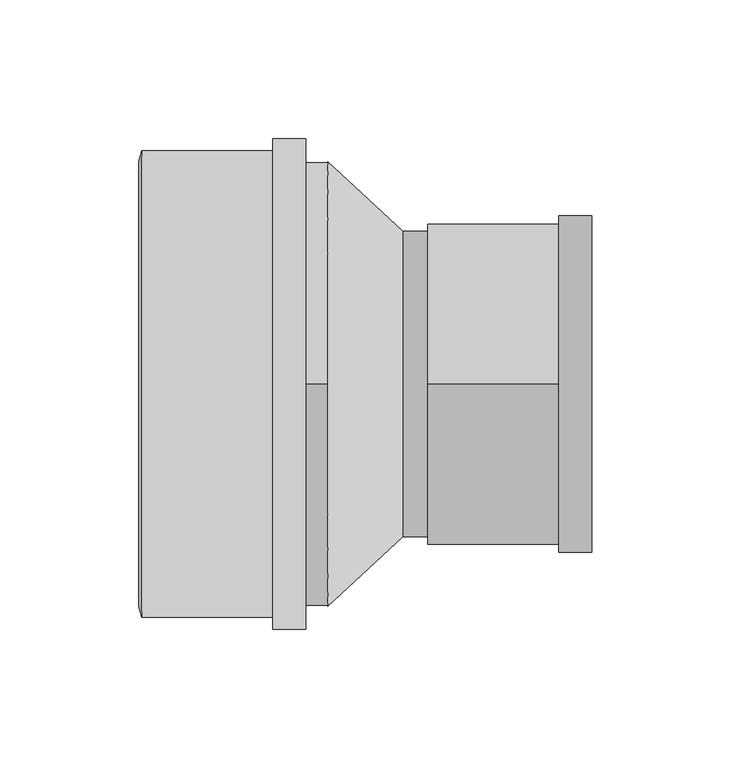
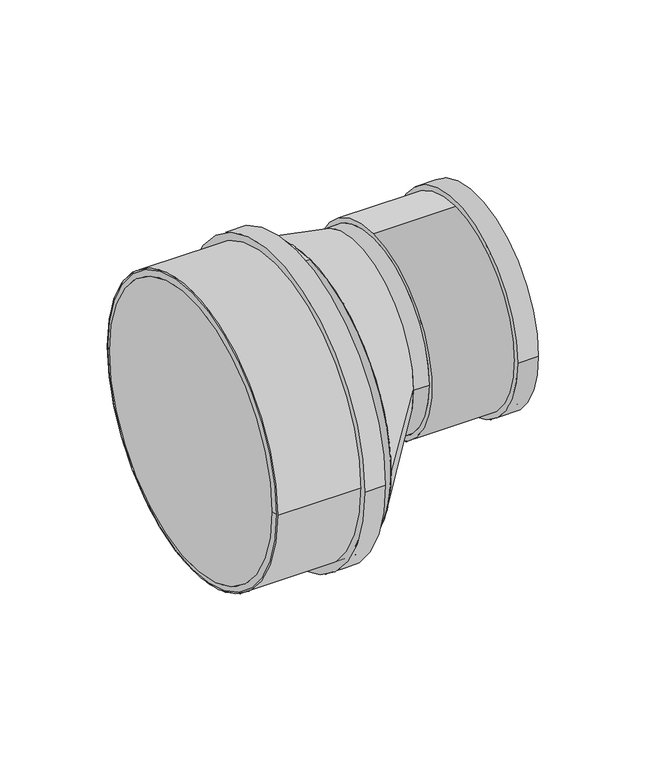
"""IFC4 building model written with IfcOpenShell, lengths in millimetres: pipe fitting geometry, Superdrain SKR-Reducer : Superdrain SKR-Reducer."""

from ifc_helpers import new_model, si_unit, point, frame, frame_2d, origin, origin_2d, place, context, project, spatial, polyline, circle_curve, trimmed, segment, composite_curve, outline, extrude, source, transform, mapped, element, save
from ifc_brep_helpers import plane_surface, revolved_surface, spline_surface, advanced_brep


def pipe_fitting_d8eed5cc(model_context):
    return source(origin(), model_context, "Body", "SolidModel", [
        extrude(outline(composite_curve([segment(trimmed(circle_curve(frame_2d((0.0, 0.1450234)), 84.0), [point((84.0, 0.1450234))], [point((-84.0, 0.1450234))], False, "CARTESIAN"), True, "CONTINUOUS"), segment(trimmed(circle_curve(frame_2d((0.0, 0.1450234)), 84.0), [point((-84.0, 0.1450234))], [point((84.0, 0.1450234))], False, "CARTESIAN"), True, "CONTINUOUS")], self_intersect=False), holes=[composite_curve([segment(trimmed(circle_curve(frame_2d((0.0, 0.1450234)), 80.0), [point((80.0, 0.1450234))], [point((-80.0, 0.1450234))], True, "CARTESIAN"), True, "CONTINUOUS"), segment(trimmed(circle_curve(frame_2d((0.0, 0.1450234)), 80.0), [point((-80.0, 0.1450234))], [point((80.0, 0.1450234))], True, "CARTESIAN"), True, "CONTINUOUS")], self_intersect=False)]), frame((-67.0, 0.0, 0.0), z_axis=(1.0, 0.0, 0.0), x_axis=(0.0, 1.0, 0.0)), (0.0, 0.0, 1.0), 59.0),
        extrude(outline(composite_curve([segment(trimmed(circle_curve(frame_2d((0.0, 0.1450234)), 88.2), [point((88.2, 0.1450234))], [point((-88.2, 0.1450234))], False, "CARTESIAN"), True, "CONTINUOUS"), segment(trimmed(circle_curve(frame_2d((0.0, 0.1450234)), 88.2), [point((-88.2, 0.1450234))], [point((88.2, 0.1450234))], False, "CARTESIAN"), True, "CONTINUOUS")], self_intersect=False), holes=[composite_curve([segment(trimmed(circle_curve(frame_2d((0.0, 0.1450234)), 80.0), [point((80.0, 0.1450234))], [point((-80.0, 0.1450234))], True, "CARTESIAN"), True, "CONTINUOUS"), segment(trimmed(circle_curve(frame_2d((0.0, 0.1450234)), 80.0), [point((-80.0, 0.1450234))], [point((80.0, 0.1450234))], True, "CARTESIAN"), True, "CONTINUOUS")], self_intersect=False)]), frame((-19.8, 0.0, 0.0), z_axis=(1.0, 0.0, 0.0), x_axis=(0.0, 1.0, 0.0)), (0.0, 0.0, 1.0), 11.8),
        advanced_brep(
        [(-68.0, 80.0, 0.1450234), (-68.0, -80.0, 0.1450234), (-67.0, 84.0, 0.1450234), (-67.0, -84.0, 0.1450234)],
        [
            (0, 1, circle_curve(frame((-68.0, 0.0, 0.1450234), z_axis=(-1.0, 0.0, 0.0), x_axis=(0.0, 1.0000000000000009, 0.0)), 80.0)),
            (1, 0, circle_curve(frame((-68.0, 0.0, 0.1450234), z_axis=(-1.0, 0.0, 0.0), x_axis=(0.0, -1.0000000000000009, 0.0)), 80.0)),
            (2, 3, circle_curve(frame((-67.0, 0.0, 0.1450234), z_axis=(1.0, 0.0, 0.0), x_axis=(0.0, -1.0000000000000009, 0.0)), 84.0)),
            (3, 2, circle_curve(frame((-67.0, 0.0, 0.1450234), z_axis=(1.0, 0.0, 0.0), x_axis=(0.0, 1.0000000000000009, 0.0)), 84.0)),
            (3, 1),
            (0, 2),
        ],
        [
            plane_surface(frame((-68.0, 0.0, 0.1450234), z_axis=(-1.0, 0.0, 0.0), x_axis=(0.0, 0.0, -1.0))),
            plane_surface(frame((-67.0, 0.0, 0.1450234), z_axis=(1.0, 0.0, 0.0), x_axis=(0.0, 0.0, -1.0))),
            revolved_surface(polyline([(-68.0, 79.99999999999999, 0.1450234), (-67.0, 84.0, 0.1450234)]), (-88.0, 0.0, 0.1450234), (1.0000000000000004, 0.0, 0.0)),
            revolved_surface(polyline([(-68.0, -79.99999999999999, 0.1450234), (-67.0, -84.0, 0.1450234)]), (-88.0, 0.0, 0.1450234), (1.0000000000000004, 0.0, 0.0)),
        ],
        [
            (0, [[1, 2]]),
            (1, [[3, 4]]),
            (2, [[-4, 5, -1, 6]]),
            (3, [[-3, -6, -2, -5]]),
        ],
    ),
        advanced_brep(
        [(27.0, -55.0, 25.0), (27.0, 55.0, 25.0), (0.0, -80.0, 0.0), (0.0, 80.0, 0.0)],
        [
            (0, 1, circle_curve(frame((27.0, 0.0, 25.0), z_axis=(1.0, 0.0, 0.0), x_axis=(0.0, 1.0, 0.0)), 55.0)),
            (1, 0, circle_curve(frame((27.0, 0.0, 25.0), z_axis=(1.0, 0.0, 0.0), x_axis=(0.0, 1.0, 0.0)), 55.0)),
            (2, 3, circle_curve(frame((0.0, 0.0, 0.0), z_axis=(-1.0, 0.0, 0.0), x_axis=(0.0, 1.0, 0.0)), 80.0)),
            (3, 2, circle_curve(frame((0.0, 0.0, 0.0), z_axis=(-1.0, 0.0, 0.0), x_axis=(0.0, 1.0, 0.0)), 80.0)),
            (3, 1),
            (0, 2),
        ],
        [
            plane_surface(frame((27.0, 0.0, 25.0), z_axis=(1.0, 0.0, 0.0), x_axis=(0.0, 0.0, -1.0))),
            plane_surface(frame((0.0, 0.0, 0.0), z_axis=(-1.0, 0.0, 0.0), x_axis=(0.0, 0.0, -1.0))),
            spline_surface(2, 1, [[(0.0, -80.0, 0.0), (27.0, -55.0, 25.0)], [(0.0, -80.0, -80.0), (27.0, -55.0, -30.0)], [(0.0, 0.0, -80.0), (27.0, 0.0, -30.0)], [(0.0, 80.0, -80.0), (27.0, 55.0, -30.0)], [(0.0, 80.0, 0.0), (27.0, 55.0, 25.0)]], [3, 2, 3], [2, 2], [0.0, 1.0, 2.0], [0.0, 1.0], weights=[[1.0, 1.0], [0.7071067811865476, 0.7071067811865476], [1.0, 1.0], [0.7071067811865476, 0.7071067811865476], [1.0, 1.0]]),
            spline_surface(2, 1, [[(0.0, 80.0, 0.0), (27.0, 55.0, 25.0)], [(0.0, 80.0, 80.0), (27.0, 55.0, 80.0)], [(0.0, 0.0, 80.0), (27.0, 0.0, 80.0)], [(0.0, -80.0, 80.0), (27.0, -55.0, 80.0)], [(0.0, -80.0, 0.0), (27.0, -55.0, 25.0)]], [3, 2, 3], [2, 2], [0.0, 1.0, 2.0], [0.0, 1.0], weights=[[1.0, 1.0], [0.7071067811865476, 0.7071067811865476], [1.0, 1.0], [0.7071067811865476, 0.7071067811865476], [1.0, 1.0]]),
        ],
        [
            (0, [[1, 2]]),
            (1, [[3, 4]]),
            (2, [[-4, 5, -1, 6]]),
            (3, [[-3, -6, -2, -5]]),
        ],
    ),
        extrude(outline(composite_curve([segment(trimmed(circle_curve(frame_2d((0.0, 25.0)), 55.0), [point((-55.0, 25.0))], [point((55.0, 25.0))], False, "CARTESIAN"), True, "CONTINUOUS"), segment(trimmed(circle_curve(frame_2d((0.0, 25.0)), 55.0), [point((55.0, 25.0))], [point((-55.0, 25.0))], False, "CARTESIAN"), True, "CONTINUOUS")], self_intersect=False)), frame((27.0, 0.0, 0.0), z_axis=(1.0, 0.0, 0.0), x_axis=(0.0, 1.0, 0.0)), (0.0, 0.0, 1.0), 9.0),
        extrude(outline(composite_curve([segment(trimmed(circle_curve(frame_2d((0.0, 25.0)), 60.6375), [point((-60.6375, 25.0))], [point((60.6375, 25.0))], False, "CARTESIAN"), True, "CONTINUOUS"), segment(trimmed(circle_curve(frame_2d((0.0, 25.0)), 60.6375), [point((60.6375, 25.0))], [point((-60.6375, 25.0))], False, "CARTESIAN"), True, "CONTINUOUS")], self_intersect=False), holes=[composite_curve([segment(trimmed(circle_curve(frame_2d((0.0, 25.0)), 55.0), [point((55.0, 25.0))], [point((-55.0, 25.0))], True, "CARTESIAN"), True, "CONTINUOUS"), segment(trimmed(circle_curve(frame_2d((0.0, 25.0)), 55.0), [point((-55.0, 25.0))], [point((55.0, 25.0))], True, "CARTESIAN"), True, "CONTINUOUS")], self_intersect=False)]), frame((83.2, 0.0, 0.0), z_axis=(1.0, 0.0, 0.0), x_axis=(0.0, 1.0, 0.0)), (0.0, 0.0, 1.0), 11.8),
        extrude(outline(composite_curve([segment(trimmed(circle_curve(frame_2d((0.0, 25.0)), 57.75), [point((0.0, 82.75))], [point((0.0, -32.75))], False, "CARTESIAN"), True, "CONTINUOUS"), segment(trimmed(circle_curve(frame_2d((0.0, 25.0)), 57.75), [point((0.0, -32.75))], [point((0.0, 82.75))], False, "CARTESIAN"), True, "CONTINUOUS")], self_intersect=False), holes=[composite_curve([segment(trimmed(circle_curve(frame_2d((0.0, 25.0)), 55.0), [point((55.0, 25.0))], [point((-55.0, 25.0))], True, "CARTESIAN"), True, "CONTINUOUS"), segment(trimmed(circle_curve(frame_2d((0.0, 25.0)), 55.0), [point((-55.0, 25.0))], [point((55.0, 25.0))], True, "CARTESIAN"), True, "CONTINUOUS")], self_intersect=False)]), frame((36.0, 0.0, 0.0), z_axis=(1.0, 0.0, 0.0), x_axis=(0.0, 1.0, 0.0)), (0.0, 0.0, 1.0), 59.0),
        extrude(outline(composite_curve([segment(trimmed(circle_curve(origin_2d(), 80.0), [point((0.0, 80.0))], [point((0.0, -80.0))], False, "CARTESIAN"), True, "CONTINUOUS"), segment(trimmed(circle_curve(origin_2d(), 80.0), [point((0.0, -80.0))], [point((0.0, 80.0))], False, "CARTESIAN"), True, "CONTINUOUS")], self_intersect=False)), frame((-67.0, 0.0, 0.0), z_axis=(1.0, 0.0, 0.0), x_axis=(0.0, 1.0, 0.0)), (0.0, 0.0, 1.0), 67.0),
    ])


if __name__ == "__main__":
    model = new_model("IFC4")
    model_context = context("Model", 3, world=origin())
    ifc_project = project(units=[si_unit("LENGTHUNIT", "METRE", prefix="MILLI")], contexts=[model_context])
    site = spatial("IfcSite", under=ifc_project)
    building = spatial("IfcBuilding", under=site)
    placement = place(None, origin())
    pipe_fitting_shape = pipe_fitting_d8eed5cc(model_context)
    element("IfcPipeFitting", 1, ObjectType="Superdrain SKR-Reducer : Superdrain SKR-Reducer", at=placement, inside=building, context=model_context, shape_type="MappedRepresentation", body=[
        mapped(pipe_fitting_shape, transform((0.0, 0.0, 0.0), x_axis=(1.0, 0.0, 0.0), y_axis=(0.0, 1.0, 0.0), z_axis=(0.0, 0.0, 1.0))),
    ])
    save(model, "model.ifc")
